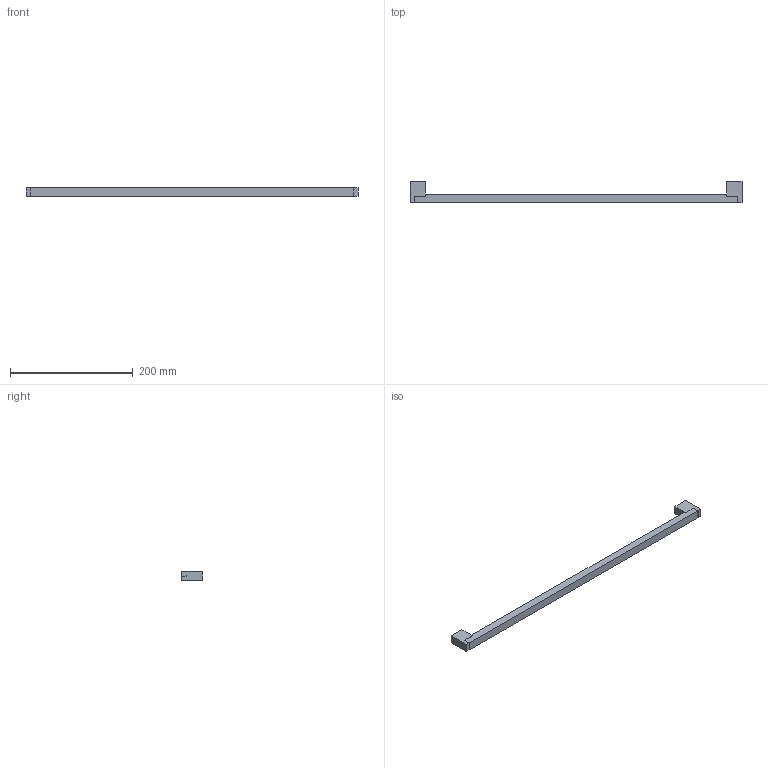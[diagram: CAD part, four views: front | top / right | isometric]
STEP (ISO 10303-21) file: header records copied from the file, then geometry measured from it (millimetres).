
FILE_DESCRIPTION( ( '' ), '1' );
FILE_NAME( 'D:/1.AUTOCAD EXPORT/Group 10/sheet_10_1/9071753.stp', '2013-10-16T10:48:53', ( '' ), ( '' ), ' ', ' ', ' ' );
FILE_SCHEMA( ( 'automotive_design' ) );
Length unit declared in the file: millimetre
Products named in the file (1): 1
Bounding box: 540 x 35 x 14 mm (x, y, z)
Volume: 113472.9 mm3; surface area: 33217.4 mm2
Topology: 1 solids, 1 shells, 44 faces, 120 edges, 80 vertices
Faces by surface type: plane 40, cylinder 4
Entity records: 2748 total; most frequent: STYLED_ITEM 245, PRESENTATION_STYLE_ASSIGNMENT 245, CARTESIAN_POINT 245, COLOUR_RGB 245, ORIENTED_EDGE 240, DIRECTION 218, EDGE_CURVE 120, CURVE_STYLE 120
